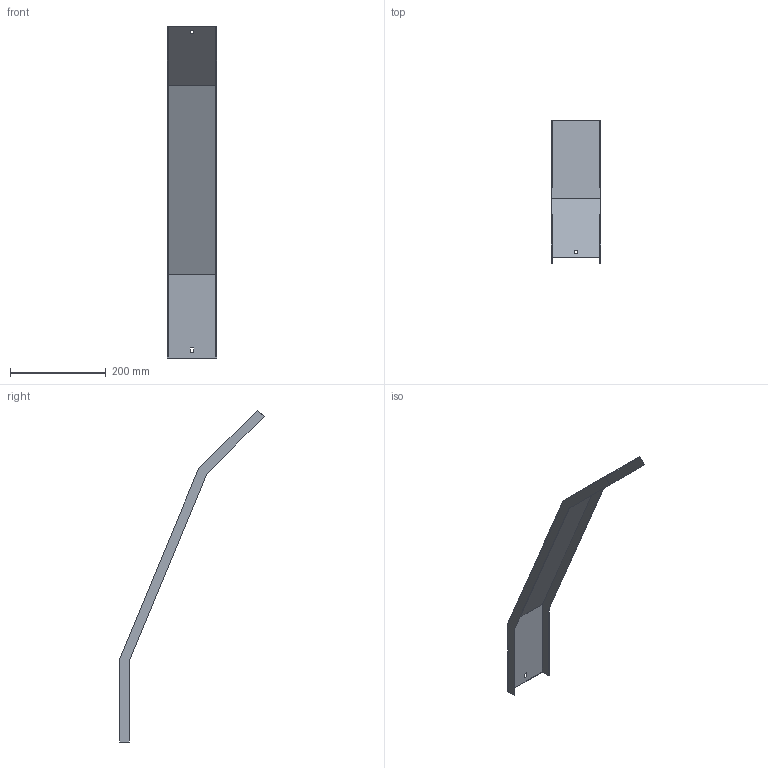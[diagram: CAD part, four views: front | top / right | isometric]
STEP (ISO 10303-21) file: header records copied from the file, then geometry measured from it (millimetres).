
FILE_DESCRIPTION (( 'STEP AP214' ), '1' );
FILE_NAME ('34N5D100.step', '2025-02-21T10:33:01', ( '' ), ( '' ), 'SwSTEP 2.0', 'SolidWorks 2023', '' );
FILE_SCHEMA (( 'AUTOMOTIVE_DESIGN' ));
Length unit declared in the file: millimetre
Products named in the file (1): 34N5D100
Bounding box: 103 x 301.7 x 694.23 mm (x, y, z)
Volume: 162619.3 mm3; surface area: 219626.6 mm2
Topology: 1 solids, 1 shells, 26 faces, 72 edges, 48 vertices
Faces by surface type: plane 26
Entity records: 847 total; most frequent: CARTESIAN_POINT 147, ORIENTED_EDGE 144, DIRECTION 126, VECTOR 72, LINE 72, EDGE_CURVE 72, VERTEX_POINT 48, EDGE_LOOP 30
